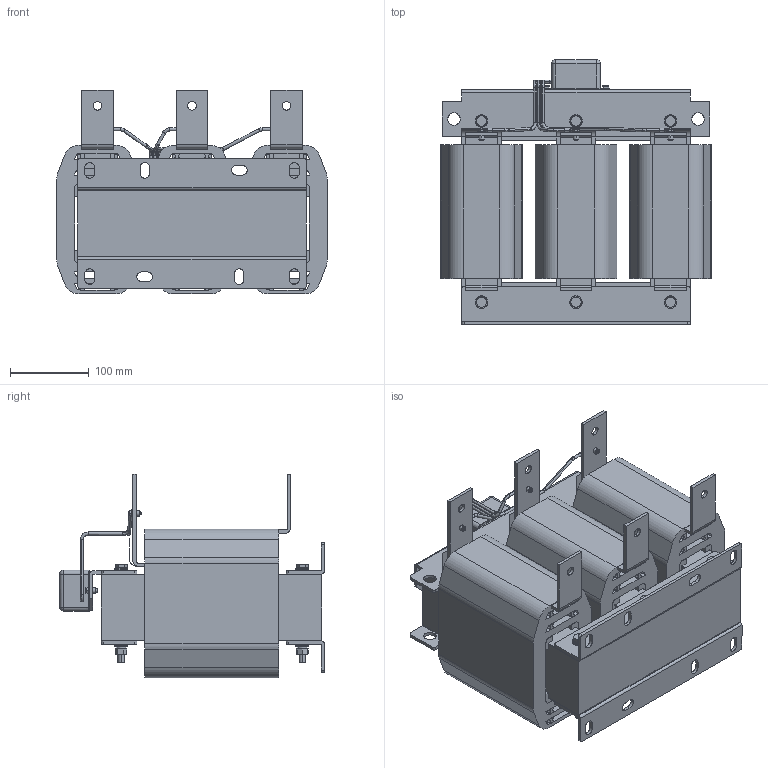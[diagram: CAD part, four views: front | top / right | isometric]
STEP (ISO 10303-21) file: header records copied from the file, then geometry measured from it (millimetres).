
FILE_DESCRIPTION (( 'STEP AP203' ), '1' );
FILE_NAME ('婰錪襝 dU_dT _ IDUDT-220_286-6.STEP', '2026-05-06T14:41:21', ( '' ), ( '' ), 'SwSTEP 2.0', 'SolidWorks 2021', '' );
FILE_SCHEMA (( 'CONFIG_CONTROL_DESIGN' ));
Length unit declared in the file: millimetre
Products named in the file (62): DVT-线圈-250kW_27; DVT-线圈-250kW_36; 电容引线-300A; DVT-线圈-250kW_20; DVT-线圈-250kW_18; DVT-线圈-250kW; M4℅12坋趼鞠褒芛蹟邡; DVT-线圈-250kW_3; RNB1.25-4; 狟標璃-SKS-1007.405-LJ-A0; spring lock washers--normal type gb_GB_FASTENER_WASHER_SW 8; 婰錪襝 dU_dT _ IDUDT-220_286-6; 电容引线-300A_2; DVT-线圈-250kW_35; DVT-线圈-250kW_24; ﾇｰﾉﾏｼﾐｼ340｡ﾁ60｡ﾁ50; DVT-线圈-250kW_13; W26.5¡ÁH22¡ÁT12; DVT-线圈-250kW_10; DVT-线圈-250kW_34; DVT-外出线排40×4-75; DVT-线圈-250kW_4; DVT-线圈-250kW_33; 三相铁芯290-50×83-280; DVT-线圈-250kW_12; DVT-线圈-250kW_8; 电容引线-300A_1; hexagon nuts grade c gb_GB_FASTENER_NUT_SNC1 M8-N; 嶺啣沭50-280; DVT-线圈-250kW_37; DVT-线圈-250kW_16; DVT-线圈-250kW_26; DVT-线圈-250kW_28; DVT-线圈-250kW_6; DVT-线圈-250kW_31; DVT-线圈-250kW_14; DVT-线圈-250kW_32; DVT-线圈-250kW_11; 鞠褒蹟邡M8℅120; 0.25橈埽祧-400A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
Assembly tree (123 placements, depth 3):
  婰錪襝 dU_dT _ IDUDT-220_286-6
    三相铁芯290-50×83-280
    ﾇｰﾉﾏｼﾐｼ340｡ﾁ60｡ﾁ50
    奻標璃-SKS-1007.404-LJ-A1
    狟標璃-SKS-1007.405-LJ-A0  x2
    嶺啣沭50-280  x6
    plain washers--product grade c gb_GB_FASTENER_WASHER_SMWC 8  x24
    spring lock washers--normal type gb_GB_FASTENER_WASHER_SW 8  x6
    hexagon nuts grade c gb_GB_FASTENER_NUT_SNC1 M8-N  x6
    鞠褒蹟邡M8℅120  x6
    电容盒-SKS-0901.601-LJ-A2
    M4す菜  x5
    M4℅12坋趼鞠褒芛蹟邡  x5
    DVT-线圈-250kW
      DVT-线圈-250kW_25
      DVT-线圈-250kW_11
      DVT-线圈-250kW_31
      DVT-线圈-250kW_12
      DVT-线圈-250kW_5
      DVT-线圈-250kW_8
      DVT-线圈-250kW_24
      DVT-线圈-250kW_15
      DVT-线圈-250kW_7
      DVT-线圈-250kW_2
      DVT-线圈-250kW
      DVT-线圈-250kW_19
      DVT-线圈-250kW_13
      DVT-线圈-250kW_1
      DVT-线圈-250kW_37
      DVT-线圈-250kW_27
      DVT-线圈-250kW_21
      DVT-线圈-250kW_33
      DVT-线圈-250kW_28
      DVT-线圈-250kW_32
      DVT-线圈-250kW_30
      DVT-线圈-250kW_38
      DVT-线圈-250kW_26
      DVT-线圈-250kW_34
      DVT-线圈-250kW_20
      DVT-线圈-250kW_35
      DVT-线圈-250kW_3
      DVT-线圈-250kW_18
      DVT-线圈-250kW_10
      DVT-线圈-250kW_6
      DVT-线圈-250kW_22
      DVT-线圈-250kW_9
      DVT-线圈-250kW_14
      DVT-线圈-250kW_23
      DVT-线圈-250kW_16
      DVT-线圈-250kW_4
      DVT-线圈-250kW_36
      DVT-线圈-250kW_29
      DVT-线圈-250kW_17
    DVT-外出线排40×4-75  x3
    DVT-囀堤盄齬40℅4  x3
    RNB1.25-4  x3
    电容引线-300A
      电容引线-300A_2
      电容引线-300A
      电容引线-300A_1
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Bounding box: 344 x 336 x 259 mm (x, y, z)
Volume: 11247628.4 mm3; surface area: 1793535.5 mm2
Topology: 121 solids, 121 shells, 2575 faces, 6596 edges, 4332 vertices
Faces by surface type: plane 1404, cylinder 674, bspline 362, cone 130, sphere 5
Entity records: 52711 total; most frequent: CARTESIAN_POINT 12874, ORIENTED_EDGE 6578, DIRECTION 6457, EDGE_CURVE 3289, VERTEX_POINT 2169, AXIS2_PLACEMENT_3D 2160, LINE 2137, VECTOR 2137
